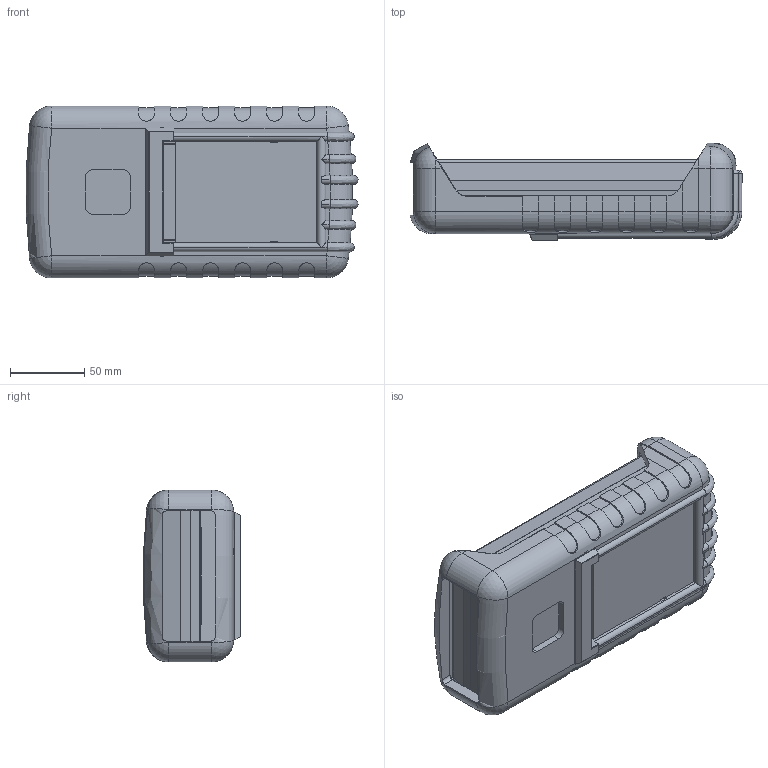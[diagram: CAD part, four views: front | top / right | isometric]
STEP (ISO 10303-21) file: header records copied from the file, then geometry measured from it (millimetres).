
FILE_DESCRIPTION (( 'STEP AP214' ), '1' );
FILE_NAME ('100-42-9V-E-R.STEP', '2020-11-20T14:32:53', ( 'Rudy' ), ( '' ), 'SwSTEP 2.0', 'SolidWorks 2016', '' );
FILE_SCHEMA (( 'AUTOMOTIVE_DESIGN' ));
Length unit declared in the file: inch
Products named in the file (7): 100 RBE; 100-9V PCB; 9Vdoor; 100-06 EXPANDER; 100-04-recessed Top; 100-02 BOT-9V; 100-42-9V-E-R
Assembly tree (6 placements, depth 2):
  100-42-9V-E-R
    100-02 BOT-9V
    100-04-recessed Top
    100-06 EXPANDER
    9Vdoor
    100-9V PCB
    100 RBE
Bounding box: 223.76 x 65.38 x 115.87 mm (x, y, z)
Volume: 404372.1 mm3; surface area: 275428.4 mm2
Topology: 6 solids, 6 shells, 1239 faces, 3279 edges, 2050 vertices
Faces by surface type: plane 622, cylinder 454, bspline 67, cone 42, torus 38, sphere 16
Entity records: 41653 total; most frequent: CARTESIAN_POINT 11835, ORIENTED_EDGE 6470, DIRECTION 5798, EDGE_CURVE 3235, VERTEX_POINT 2042, LINE 1998, VECTOR 1998, AXIS2_PLACEMENT_3D 1900
